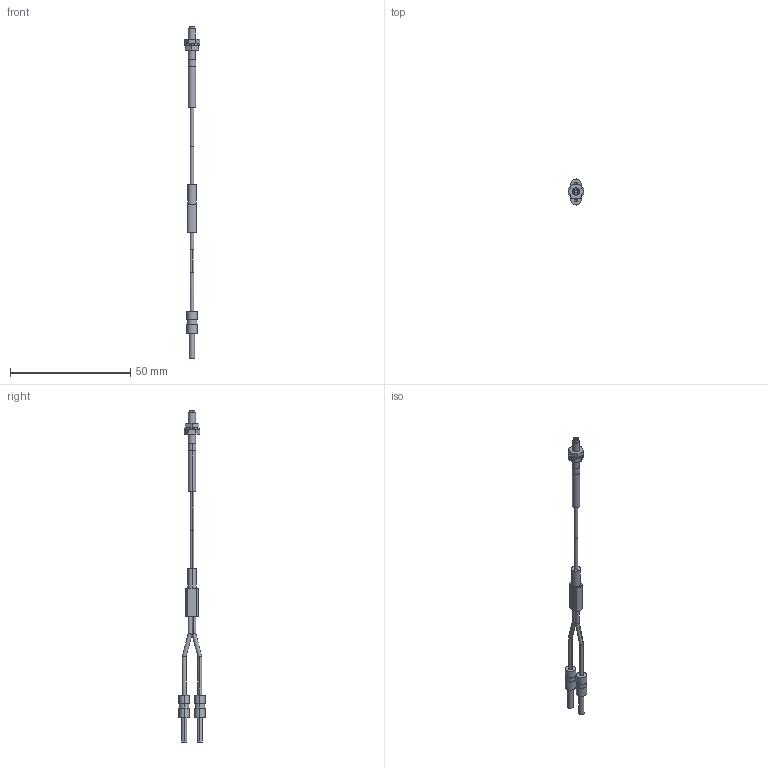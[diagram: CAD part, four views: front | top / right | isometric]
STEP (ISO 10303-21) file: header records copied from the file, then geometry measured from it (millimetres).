
FILE_DESCRIPTION (( 'STEP AP203' ), '1' );
FILE_NAME ('FD-EG3.STEP', '2005-09-04T09:24:04', ( '川島良英' ), ( ' ' ), 'SwSTEP 2.0', 'SolidWorks 2004251', '' );
FILE_SCHEMA (( 'CONFIG_CONTROL_DESIGN' ));
Length unit declared in the file: millimetre
Products named in the file (1): FD-EG3
Bounding box: 6.5 x 10.83 x 138 mm (x, y, z)
Volume: 1162.9 mm3; surface area: 1849.6 mm2
Topology: 7 solids, 7 shells, 98 faces, 204 edges, 133 vertices
Faces by surface type: cylinder 53, plane 45
Entity records: 2705 total; most frequent: CARTESIAN_POINT 478, DIRECTION 478, ORIENTED_EDGE 408, EDGE_CURVE 204, AXIS2_PLACEMENT_3D 189, VERTEX_POINT 133, EDGE_LOOP 117, VECTOR 100
